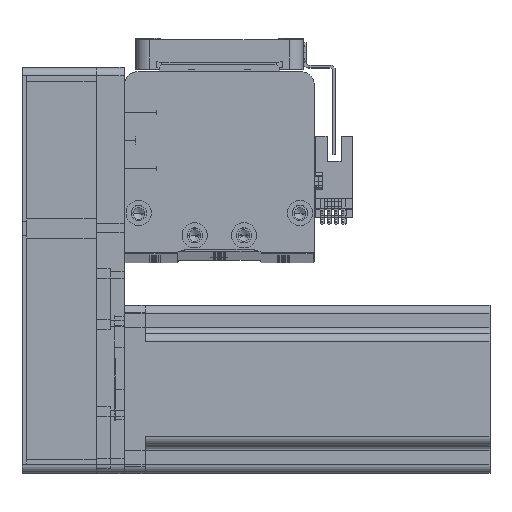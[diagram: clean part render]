
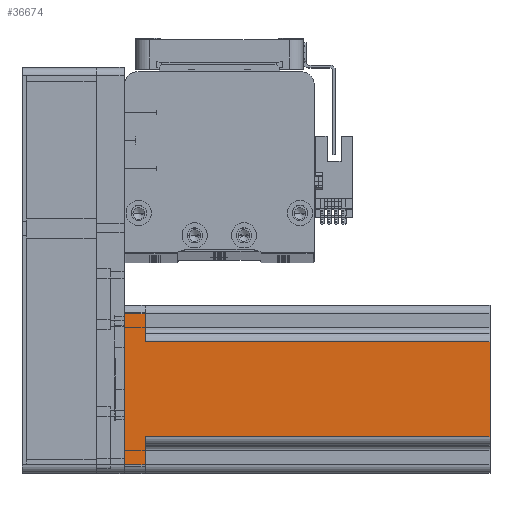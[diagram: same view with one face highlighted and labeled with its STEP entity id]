
A CAD part, top view. The second image highlights one B-rep face of the part: STEP entity #36674.
In plain terms, the highlighted planar face has unit normal (0, 0, 1) as drawn and (0, -1, 0) by its records, which use the part's own axes.
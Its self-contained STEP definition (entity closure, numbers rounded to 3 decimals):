
#2086 = LINE ( 'NONE', #35914, #12149 ) ;
#2383 = ORIENTED_EDGE ( 'NONE', *, *, #2533, .T. ) ;
#2405 = LINE ( 'NONE', #34091, #46738 ) ;
#2533 = EDGE_CURVE ( 'NONE', #6120, #22365, #30639, .T. ) ;
#5093 = ORIENTED_EDGE ( 'NONE', *, *, #7572, .F. ) ;
#5284 = CARTESIAN_POINT ( 'NONE',  ( 27., -30., 7.5 ) ) ;
#5430 = VECTOR ( 'NONE', #9059, 1000. ) ;
#5900 = DIRECTION ( 'NONE',  ( 1., 0., 0. ) ) ;
#6035 = CARTESIAN_POINT ( 'NONE',  ( 17., -30., 130.7 ) ) ;
#6120 = VERTEX_POINT ( 'NONE', #14640 ) ;
#7572 = EDGE_CURVE ( 'NONE', #43868, #28636, #2086, .T. ) ;
#9059 = DIRECTION ( 'NONE',  ( 1., 0., 0. ) ) ;
#9472 = AXIS2_PLACEMENT_3D ( 'NONE', #42727, #17029, #47031 ) ;
#9961 = CARTESIAN_POINT ( 'NONE',  ( 27., -30., 130.7 ) ) ;
#9980 = DIRECTION ( 'NONE',  ( 0., 0., -1. ) ) ;
#10319 = ORIENTED_EDGE ( 'NONE', *, *, #14382, .T. ) ;
#10570 = ORIENTED_EDGE ( 'NONE', *, *, #22823, .T. ) ;
#10670 = EDGE_CURVE ( 'NONE', #22365, #22497, #36456, .T. ) ;
#11611 = VERTEX_POINT ( 'NONE', #6035 ) ;
#12149 = VECTOR ( 'NONE', #5900, 1000. ) ;
#12333 = ORIENTED_EDGE ( 'NONE', *, *, #20968, .T. ) ;
#14382 = EDGE_CURVE ( 'NONE', #22497, #29813, #2405, .T. ) ;
#14640 = CARTESIAN_POINT ( 'NONE',  ( -27., -30., 0. ) ) ;
#14987 = VECTOR ( 'NONE', #39986, 1000. ) ;
#16848 = PLANE ( 'NONE',  #9472 ) ;
#17029 = DIRECTION ( 'NONE',  ( 0., 1., 0. ) ) ;
#19178 = VECTOR ( 'NONE', #22493, 1000. ) ;
#19630 = VERTEX_POINT ( 'NONE', #41553 ) ;
#20968 = EDGE_CURVE ( 'NONE', #29813, #11611, #39111, .T. ) ;
#22118 = DIRECTION ( 'NONE',  ( 0., 0., 1. ) ) ;
#22365 = VERTEX_POINT ( 'NONE', #30457 ) ;
#22493 = DIRECTION ( 'NONE',  ( 1., 0., 0. ) ) ;
#22497 = VERTEX_POINT ( 'NONE', #5284 ) ;
#22823 = EDGE_CURVE ( 'NONE', #43868, #6120, #42784, .T. ) ;
#25408 = EDGE_CURVE ( 'NONE', #19630, #11611, #38331, .T. ) ;
#26303 = ORIENTED_EDGE ( 'NONE', *, *, #10670, .T. ) ;
#26403 = CARTESIAN_POINT ( 'NONE',  ( 30., -30., 130.7 ) ) ;
#28636 = VERTEX_POINT ( 'NONE', #28976 ) ;
#28913 = DIRECTION ( 'NONE',  ( 0., 0., -1. ) ) ;
#28976 = CARTESIAN_POINT ( 'NONE',  ( -17., -30., 7.5 ) ) ;
#29813 = VERTEX_POINT ( 'NONE', #49658 ) ;
#29956 = DIRECTION ( 'NONE',  ( -1., 0., 0. ) ) ;
#30263 = ORIENTED_EDGE ( 'NONE', *, *, #25408, .F. ) ;
#30457 = CARTESIAN_POINT ( 'NONE',  ( 27., -30., 0. ) ) ;
#30639 = LINE ( 'NONE', #39584, #19178 ) ;
#30925 = CARTESIAN_POINT ( 'NONE',  ( 17., -30., 130.7 ) ) ;
#31400 = CARTESIAN_POINT ( 'NONE',  ( -17., -30., 130.7 ) ) ;
#32578 = VECTOR ( 'NONE', #9980, 1000. ) ;
#33597 = CARTESIAN_POINT ( 'NONE',  ( -27., -30., 130.7 ) ) ;
#34091 = CARTESIAN_POINT ( 'NONE',  ( 20., -30., 7.5 ) ) ;
#35914 = CARTESIAN_POINT ( 'NONE',  ( -20., -30., 7.5 ) ) ;
#36456 = LINE ( 'NONE', #9961, #14987 ) ;
#36674 = ADVANCED_FACE ( 'NONE', ( #49242 ), #16848, .F. ) ;
#38331 = LINE ( 'NONE', #26403, #5430 ) ;
#38356 = CARTESIAN_POINT ( 'NONE',  ( -27., -30., 7.5 ) ) ;
#39111 = LINE ( 'NONE', #30925, #49132 ) ;
#39584 = CARTESIAN_POINT ( 'NONE',  ( 30., -30., 0. ) ) ;
#39986 = DIRECTION ( 'NONE',  ( 0., 0., 1. ) ) ;
#40816 = EDGE_LOOP ( 'NONE', ( #30263, #50433, #5093, #10570, #2383, #26303, #10319, #12333 ) ) ;
#41553 = CARTESIAN_POINT ( 'NONE',  ( -17., -30., 130.7 ) ) ;
#42373 = EDGE_CURVE ( 'NONE', #19630, #28636, #45325, .T. ) ;
#42727 = CARTESIAN_POINT ( 'NONE',  ( 30., -30., 130.7 ) ) ;
#42784 = LINE ( 'NONE', #33597, #54168 ) ;
#43868 = VERTEX_POINT ( 'NONE', #38356 ) ;
#45325 = LINE ( 'NONE', #31400, #32578 ) ;
#46738 = VECTOR ( 'NONE', #29956, 1000. ) ;
#47031 = DIRECTION ( 'NONE',  ( -1., 0., 0. ) ) ;
#49132 = VECTOR ( 'NONE', #22118, 1000. ) ;
#49242 = FACE_OUTER_BOUND ( 'NONE', #40816, .T. ) ;
#49658 = CARTESIAN_POINT ( 'NONE',  ( 17., -30., 7.5 ) ) ;
#50433 = ORIENTED_EDGE ( 'NONE', *, *, #42373, .T. ) ;
#54168 = VECTOR ( 'NONE', #28913, 1000. ) ;
